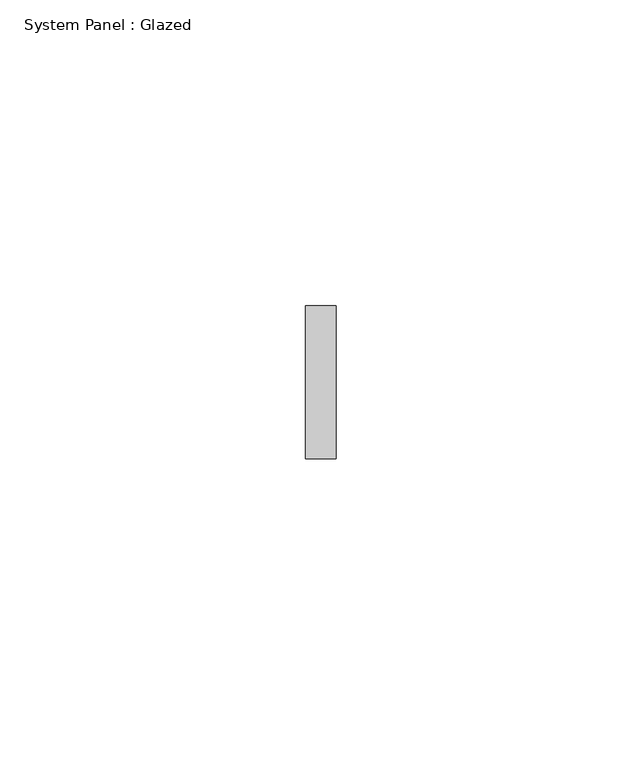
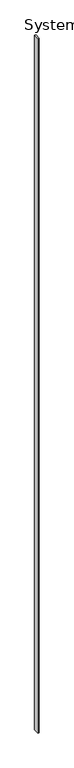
"""IFC4 building model written with IfcOpenShell, lengths in millimetres: plate geometry, System Panel : Glazed."""

import ifcopenshell
import ifcopenshell.guid

model = None  # the IFC model being written
_history = None  # IfcOwnerHistory: only IFC2X3 demands one
_inside = {}  # id of a spatial element -> (the spatial element, [elements in it])
_under = {}  # id of a project, library or spatial element -> (it, [spatial elements below it])
_declared = {}  # id of a project -> (the project, [libraries it declares])
_typed = {}  # id of a type object -> (the type object, [elements of that type])
_made_of = {}  # id of a material, layer set ... -> (it, [elements and type objects made of it])


def new_model(schema):
    """Start an empty IFC model of exactly this schema.

    Asked for "IFC4X3", IfcOpenShell would pick the latest addendum, in which some entities
    have other attributes; the version numbers below select the first issue.
    IFC2X3 requires an IfcOwnerHistory on every rooted entity: one is made here for all.
    """
    global model, _history
    if schema == "IFC4X3":
        model = ifcopenshell.file(schema_version=(4, 3, 0, 0))
    else:
        model = ifcopenshell.file(schema=schema)
    _inside.clear()
    _under.clear()
    _declared.clear()
    _typed.clear()
    _made_of.clear()
    _history = None
    if model.schema == "IFC2X3":
        org = make("IfcOrganization", Name="unknown")
        user = make(
            "IfcPersonAndOrganization",
            ThePerson=make("IfcPerson", FamilyName="unknown"),
            TheOrganization=org,
        )
        app = make(
            "IfcApplication",
            ApplicationDeveloper=org,
            Version="unknown",
            ApplicationFullName="unknown",
            ApplicationIdentifier="unknown",
        )
        _history = make(
            "IfcOwnerHistory",
            OwningUser=user,
            OwningApplication=app,
            ChangeAction="ADDED",
            CreationDate=0,
        )
    return model


def make(cls, **values):
    """One entity of the class cls with the attributes given. An attribute that is None is left unset."""
    return model.create_entity(
        cls, **{name: value for name, value in values.items() if value is not None}
    )


def rooted(cls, **values):
    """An entity with a GlobalId (a new one), such as an element, a storey or a relation."""
    return make(cls, GlobalId=ifcopenshell.guid.new(), OwnerHistory=_history, **values)


def si_unit(unit_type, name, prefix=None):
    """IfcSIUnit, for example si_unit("LENGTHUNIT", "METRE", prefix="MILLI")."""
    return make("IfcSIUnit", UnitType=unit_type, Prefix=prefix, Name=name)


def assignment(units):
    """IfcUnitAssignment: the units of a project."""
    return None if units is None else make("IfcUnitAssignment", Units=units)


def point(xyz):
    """IfcCartesianPoint."""
    return None if xyz is None else make("IfcCartesianPoint", Coordinates=xyz)


def direction(xyz):
    """IfcDirection."""
    return None if xyz is None else make("IfcDirection", DirectionRatios=xyz)


def frame(location, z_axis=None, x_axis=None):
    """IfcAxis2Placement3D, a coordinate frame: its origin and axes. An axis left out is left unset."""
    return make(
        "IfcAxis2Placement3D",
        Location=point(location),
        Axis=direction(z_axis),
        RefDirection=direction(x_axis),
    )


def origin():
    """The frame at (0, 0, 0) with its axes left unset."""
    return frame((0.0, 0.0, 0.0))


def origin_with_axes():
    """The frame at (0, 0, 0) with the z axis (0, 0, 1) and the x axis (1, 0, 0) written out."""
    return frame((0.0, 0.0, 0.0), z_axis=(0.0, 0.0, 1.0), x_axis=(1.0, 0.0, 0.0))


def place(relative_to, where):
    """IfcLocalPlacement: puts the frame where relative to a parent placement (None: the world)."""
    return make(
        "IfcLocalPlacement", PlacementRelTo=relative_to, RelativePlacement=where
    )


def context(
    kind, dimensions, precision=None, world=None, true_north=None, identifier=None
):
    """IfcGeometricRepresentationContext, for example the 3D "Model" context."""
    return make(
        "IfcGeometricRepresentationContext",
        ContextIdentifier=identifier,
        ContextType=kind,
        CoordinateSpaceDimension=dimensions,
        Precision=precision,
        WorldCoordinateSystem=world,
        TrueNorth=true_north,
    )


def project(units=None, contexts=None):
    """IfcProject with its units and contexts."""
    return rooted(
        "IfcProject",
        Name="project",
        RepresentationContexts=contexts,
        UnitsInContext=assignment(units),
    )


def spatial(cls, under=None, at=None, **own):
    """A site, building, storey or space (cls), placed at a placement, below another one or the project."""
    s = rooted(cls, ObjectPlacement=at, **own)
    if under is not None:
        _under.setdefault(under.id(), (under, []))[1].append(s)
    return s


def polyline(points):
    """IfcPolyline through the points."""
    return make("IfcPolyline", Points=[point(p) for p in points])


def outline(outer, holes=None, kind="AREA"):
    """IfcArbitraryClosedProfileDef: a profile drawn as a closed curve; with holes, ...WithVoids."""
    if holes is None:
        return make("IfcArbitraryClosedProfileDef", ProfileType=kind, OuterCurve=outer)
    return make(
        "IfcArbitraryProfileDefWithVoids",
        ProfileType=kind,
        OuterCurve=outer,
        InnerCurves=holes,
    )


def extrude(swept, where, along, depth):
    """IfcExtrudedAreaSolid: the profile swept, set in the frame where, extruded along a direction by depth."""
    return make(
        "IfcExtrudedAreaSolid",
        SweptArea=swept,
        Position=where,
        ExtrudedDirection=direction(along),
        Depth=depth,
    )


def shape(context_of_items, identifier, shape_type, items):
    """IfcShapeRepresentation: the items that make up one representation, for example the "Body"."""
    return make(
        "IfcShapeRepresentation",
        ContextOfItems=context_of_items,
        RepresentationIdentifier=identifier,
        RepresentationType=shape_type,
        Items=items,
    )


def source(mapping_origin, context_of_items, identifier, shape_type, items):
    """IfcRepresentationMap: a shape defined once, which mapped items show again and again."""
    return make(
        "IfcRepresentationMap",
        MappingOrigin=mapping_origin,
        MappedRepresentation=shape(context_of_items, identifier, shape_type, items),
    )


def transform(
    local_origin,
    x_axis=None,
    y_axis=None,
    z_axis=None,
    scale=None,
    scale2=None,
    scale3=None,
    uniform=True,
):
    """IfcCartesianTransformationOperator3D, or its non-uniform kind. x_axis, y_axis, z_axis: its Axis1, 2, 3."""
    if uniform:
        return make(
            "IfcCartesianTransformationOperator3D",
            Axis1=direction(x_axis),
            Axis2=direction(y_axis),
            LocalOrigin=point(local_origin),
            Scale=scale,
            Axis3=direction(z_axis),
        )
    return make(
        "IfcCartesianTransformationOperator3DnonUniform",
        Axis1=direction(x_axis),
        Axis2=direction(y_axis),
        LocalOrigin=point(local_origin),
        Scale=scale,
        Axis3=direction(z_axis),
        Scale2=scale2,
        Scale3=scale3,
    )


def mapped(mapping_source, mapping_target):
    """IfcMappedItem: shows the shape of a source again, moved by a transform."""
    return make(
        "IfcMappedItem", MappingSource=mapping_source, MappingTarget=mapping_target
    )


def made_of(thing, what):
    """Note that an element or type object is made of a material, layer set ...; save() writes the relation."""
    if what is not None:
        _made_of.setdefault(what.id(), (what, []))[1].append(thing)
    return thing


def element(
    cls,
    number,
    at=None,
    inside=None,
    cuts=None,
    type_object=None,
    material=None,
    context=None,
    identifier="Body",
    shape_type=None,
    held_by="IfcProductDefinitionShape",
    body=None,
    shapes=None,
    **own,
):
    """One element of the class cls, such as IfcWall. Its Tag is "e" and its number.

    at: its placement. inside: the storey or other place that contains it. cuts: it is an
    opening in that element (IfcRelVoidsElement). A single representation is given by context,
    identifier, shape_type and body (its items); several are given by shapes. held_by: the class
    of the entity that holds the representations. save() writes the other relations.
    """
    e = rooted(cls, Tag="e%d" % number, ObjectPlacement=at, **own)
    if body is not None:
        shapes = [shape(context, identifier, shape_type, body)]
    if shapes is not None:
        e.Representation = make(held_by, Representations=shapes)
    if inside is not None:
        _inside.setdefault(inside.id(), (inside, []))[1].append(e)
    if cuts is not None:
        rooted(
            "IfcRelVoidsElement", RelatingBuildingElement=cuts, RelatedOpeningElement=e
        )
    if type_object is not None:
        _typed.setdefault(type_object.id(), (type_object, []))[1].append(e)
    return made_of(e, material)


def aggregate(whole, parts):
    """IfcRelAggregates: a whole, such as a stair, and the parts it consists of."""
    return rooted("IfcRelAggregates", RelatingObject=whole, RelatedObjects=parts)


def save(model, path):
    """Write the relations noted so far, then the file.

    IfcRelAggregates (storeys below a building ...), IfcRelContainedInSpatialStructure (elements
    in a storey), IfcRelDefinesByType, IfcRelAssociatesMaterial and IfcRelDeclares: one each for
    every whole, place, type object, material and project.
    """
    for whole, parts in _under.values():
        aggregate(whole, parts)
    for where, things in _inside.values():
        rooted(
            "IfcRelContainedInSpatialStructure",
            RelatedElements=things,
            RelatingStructure=where,
        )
    for kind, things in _typed.values():
        rooted("IfcRelDefinesByType", RelatedObjects=things, RelatingType=kind)
    for what, things in _made_of.values():
        rooted("IfcRelAssociatesMaterial", RelatedObjects=things, RelatingMaterial=what)
    for by, libraries in _declared.values():
        rooted("IfcRelDeclares", RelatingContext=by, RelatedDefinitions=libraries)
    model.write(path)


def system_panel_glazed_255c200d(model_context):
    return source(origin(), model_context, "Body", "SweptSolid", [
        extrude(outline(polyline([(2.4999998, 24.5), (-2.4999998, 24.5), (-2.4999998, 49.5), (2.4999998, 49.5), (2.4999998, 24.5)])), origin_with_axes(), (0.0, 0.0, 1.0), 3250.0),
    ])


if __name__ == "__main__":
    model = new_model("IFC4")
    model_context = context("Model", 3, world=origin())
    ifc_project = project(units=[si_unit("LENGTHUNIT", "METRE", prefix="MILLI")], contexts=[model_context])
    site = spatial("IfcSite", under=ifc_project)
    building = spatial("IfcBuilding", under=site)
    placement = place(None, origin())
    system_panel_glazed_shape = system_panel_glazed_255c200d(model_context)
    element("IfcPlate", 1, ObjectType="System Panel : Glazed", at=placement, inside=building, context=model_context, shape_type="MappedRepresentation", body=[
        mapped(system_panel_glazed_shape, transform((0.0, 0.0, 0.0), x_axis=(1.0, 0.0, 0.0), y_axis=(0.0, 1.0, 0.0), z_axis=(0.0, 0.0, 1.0))),
    ])
    save(model, "model.ifc")
